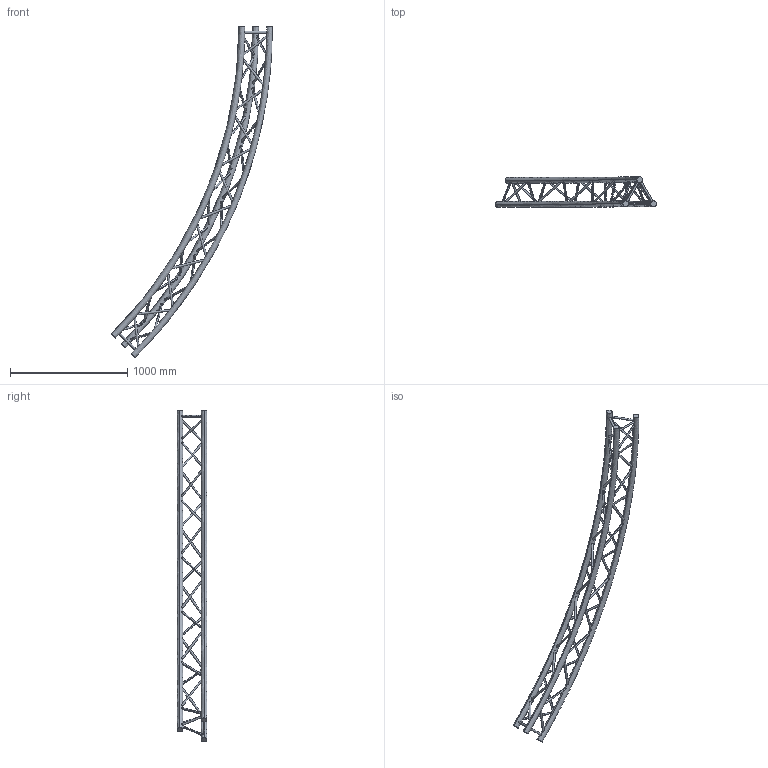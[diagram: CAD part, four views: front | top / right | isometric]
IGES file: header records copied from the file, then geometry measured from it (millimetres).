
Start section: SolidWorks IGES file using analytic representation for surfaces
Global section: file name: K:\BIBLIO\asd_biblio\SX290\Cercles\SXC29800PH\SXC29800PH.IGS; native system: SolidWorks 2009; preprocessor: SolidWorks 2009; author: des3; date: 091021.101936; units: millimetre
Bounding box: 1374.51 x 255.25 x 2828.43 mm (x, y, z)
Surface area: 1959424.8 mm2 (no closed solid volume)
Topology: 0 solids, 0 shells, 96 faces, 6914 edges, 6914 vertices
Faces by surface type: revolution 84, bspline 12
